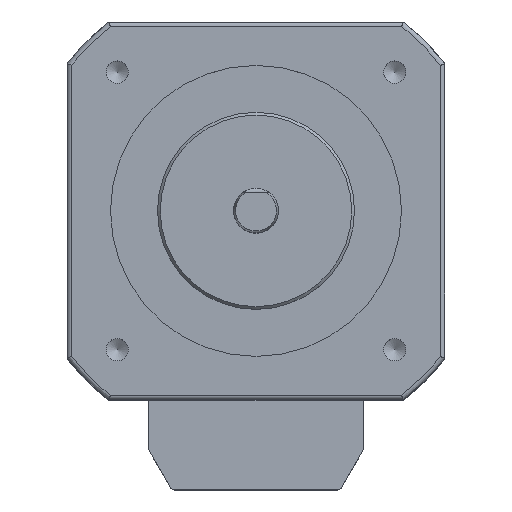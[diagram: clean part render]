
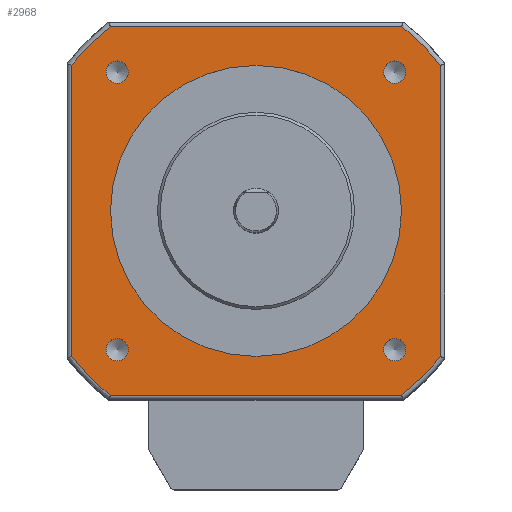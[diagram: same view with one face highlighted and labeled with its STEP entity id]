
A CAD part, top view. The second image highlights one B-rep face of the part: STEP entity #2968.
In plain terms, the highlighted planar face has unit normal (0, 0, 1).
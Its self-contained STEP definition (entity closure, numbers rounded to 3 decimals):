
#2243=CARTESIAN_POINT('',(0.,16.25,48.));
#2244=VERTEX_POINT('',#2243);
#2245=CARTESIAN_POINT('',(0.,0.,48.));
#2246=DIRECTION('',(0.,1.,-0.));
#2247=DIRECTION('',(0.,0.,1.));
#2248=AXIS2_PLACEMENT_3D('',#2245,#2247,#2246);
#2249=CIRCLE('',#2248,16.25);
#2250=EDGE_CURVE('',#2244,#2244,#2249,.T.);
#2508=CARTESIAN_POINT('',(16.268,-20.601,48.));
#2509=VERTEX_POINT('',#2508);
#2517=CARTESIAN_POINT('',(-16.269,-20.6,48.));
#2518=VERTEX_POINT('',#2517);
#2519=CARTESIAN_POINT('',(-16.269,-20.6,48.));
#2520=DIRECTION('',(1.,0.,0.));
#2521=VECTOR('',#2520,32.537);
#2522=LINE('',#2519,#2521);
#2523=EDGE_CURVE('',#2518,#2509,#2522,.T.);
#2581=CARTESIAN_POINT('',(20.6,-16.269,48.));
#2582=VERTEX_POINT('',#2581);
#2590=CARTESIAN_POINT('',(16.268,-20.601,48.));
#2591=CARTESIAN_POINT('',(16.342,-20.542,48.));
#2592=CARTESIAN_POINT('',(16.695,-20.261,48.));
#2593=CARTESIAN_POINT('',(17.311,-19.738,48.));
#2594=CARTESIAN_POINT('',(17.979,-19.131,48.));
#2595=CARTESIAN_POINT('',(18.563,-18.563,48.));
#2596=CARTESIAN_POINT('',(19.131,-17.979,48.));
#2597=CARTESIAN_POINT('',(19.738,-17.311,48.));
#2598=CARTESIAN_POINT('',(20.261,-16.695,48.));
#2599=CARTESIAN_POINT('',(20.542,-16.342,48.));
#2600=CARTESIAN_POINT('',(20.6,-16.269,48.));
#2601=B_SPLINE_CURVE_WITH_KNOTS('',2,(#2590,#2591,#2592,#2593,#2594,#2595,#2596,#2597,#2598,#2599,#2600),.UNSPECIFIED.,.F.,.U.,(3,1,1,1,1,1,1,1,1,3),(0.105,0.129,0.221,0.337,0.453,0.547,0.663,0.779,0.871,0.895),.UNSPECIFIED.);
#2602=EDGE_CURVE('',#2509,#2582,#2601,.T.);
#2614=CARTESIAN_POINT('',(20.601,16.267,48.));
#2615=VERTEX_POINT('',#2614);
#2623=CARTESIAN_POINT('',(20.6,-16.269,48.));
#2624=DIRECTION('',(0.,1.,0.));
#2625=VECTOR('',#2624,32.536);
#2626=LINE('',#2623,#2625);
#2627=EDGE_CURVE('',#2582,#2615,#2626,.T.);
#2683=CARTESIAN_POINT('',(16.269,20.6,48.));
#2684=VERTEX_POINT('',#2683);
#2692=CARTESIAN_POINT('',(20.602,16.267,48.));
#2693=CARTESIAN_POINT('',(20.543,16.341,48.));
#2694=CARTESIAN_POINT('',(20.261,16.695,48.));
#2695=CARTESIAN_POINT('',(19.738,17.311,48.));
#2696=CARTESIAN_POINT('',(19.131,17.979,48.));
#2697=CARTESIAN_POINT('',(18.563,18.563,48.));
#2698=CARTESIAN_POINT('',(17.979,19.131,48.));
#2699=CARTESIAN_POINT('',(17.311,19.738,48.));
#2700=CARTESIAN_POINT('',(16.695,20.261,48.));
#2701=CARTESIAN_POINT('',(16.342,20.542,48.));
#2702=CARTESIAN_POINT('',(16.269,20.6,48.));
#2703=B_SPLINE_CURVE_WITH_KNOTS('',2,(#2692,#2693,#2694,#2695,#2696,#2697,#2698,#2699,#2700,#2701,#2702),.UNSPECIFIED.,.F.,.U.,(3,1,1,1,1,1,1,1,1,3),(0.104,0.129,0.221,0.337,0.453,0.547,0.663,0.779,0.871,0.895),.UNSPECIFIED.);
#2704=EDGE_CURVE('',#2615,#2684,#2703,.T.);
#2716=CARTESIAN_POINT('',(-16.267,20.601,48.));
#2717=VERTEX_POINT('',#2716);
#2725=CARTESIAN_POINT('',(16.269,20.6,48.));
#2726=DIRECTION('',(-1.,0.,0.));
#2727=VECTOR('',#2726,32.536);
#2728=LINE('',#2725,#2727);
#2729=EDGE_CURVE('',#2684,#2717,#2728,.T.);
#2785=CARTESIAN_POINT('',(-20.6,16.269,48.));
#2786=VERTEX_POINT('',#2785);
#2794=CARTESIAN_POINT('',(-16.267,20.602,48.));
#2795=CARTESIAN_POINT('',(-16.341,20.543,48.));
#2796=CARTESIAN_POINT('',(-16.695,20.261,48.));
#2797=CARTESIAN_POINT('',(-17.311,19.738,48.));
#2798=CARTESIAN_POINT('',(-17.979,19.131,48.));
#2799=CARTESIAN_POINT('',(-18.563,18.563,48.));
#2800=CARTESIAN_POINT('',(-19.131,17.979,48.));
#2801=CARTESIAN_POINT('',(-19.738,17.311,48.));
#2802=CARTESIAN_POINT('',(-20.261,16.695,48.));
#2803=CARTESIAN_POINT('',(-20.542,16.342,48.));
#2804=CARTESIAN_POINT('',(-20.6,16.269,48.));
#2805=B_SPLINE_CURVE_WITH_KNOTS('',2,(#2794,#2795,#2796,#2797,#2798,#2799,#2800,#2801,#2802,#2803,#2804),.UNSPECIFIED.,.F.,.U.,(3,1,1,1,1,1,1,1,1,3),(0.104,0.129,0.221,0.337,0.453,0.547,0.663,0.779,0.871,0.895),.UNSPECIFIED.);
#2806=EDGE_CURVE('',#2717,#2786,#2805,.T.);
#2818=CARTESIAN_POINT('',(-20.601,-16.267,48.));
#2819=VERTEX_POINT('',#2818);
#2827=CARTESIAN_POINT('',(-20.6,16.269,48.));
#2828=DIRECTION('',(0.,-1.,0.));
#2829=VECTOR('',#2828,32.536);
#2830=LINE('',#2827,#2829);
#2831=EDGE_CURVE('',#2786,#2819,#2830,.T.);
#2888=CARTESIAN_POINT('',(-20.602,-16.267,48.));
#2889=CARTESIAN_POINT('',(-20.543,-16.341,48.));
#2890=CARTESIAN_POINT('',(-20.261,-16.695,48.));
#2891=CARTESIAN_POINT('',(-19.738,-17.311,48.));
#2892=CARTESIAN_POINT('',(-19.131,-17.979,48.));
#2893=CARTESIAN_POINT('',(-18.563,-18.563,48.));
#2894=CARTESIAN_POINT('',(-17.979,-19.131,48.));
#2895=CARTESIAN_POINT('',(-17.311,-19.738,48.));
#2896=CARTESIAN_POINT('',(-16.695,-20.261,48.));
#2897=CARTESIAN_POINT('',(-16.342,-20.542,48.));
#2898=CARTESIAN_POINT('',(-16.269,-20.6,48.));
#2899=B_SPLINE_CURVE_WITH_KNOTS('',2,(#2888,#2889,#2890,#2891,#2892,#2893,#2894,#2895,#2896,#2897,#2898),.UNSPECIFIED.,.F.,.U.,(3,1,1,1,1,1,1,1,1,3),(0.104,0.129,0.221,0.337,0.453,0.547,0.663,0.779,0.871,0.895),.UNSPECIFIED.);
#2900=EDGE_CURVE('',#2819,#2518,#2899,.T.);
#2906=CARTESIAN_POINT('',(0.,-0.649,48.));
#2907=DIRECTION('',(1.,0.,0.));
#2908=DIRECTION('',(0.,0.,1.));
#2909=AXIS2_PLACEMENT_3D('',#2906,#2908,#2907);
#2910=PLANE('',#2909);
#2911=ORIENTED_EDGE('',*,*,#2523,.T.);
#2912=ORIENTED_EDGE('',*,*,#2602,.T.);
#2913=ORIENTED_EDGE('',*,*,#2627,.T.);
#2914=ORIENTED_EDGE('',*,*,#2704,.T.);
#2915=ORIENTED_EDGE('',*,*,#2729,.T.);
#2916=ORIENTED_EDGE('',*,*,#2806,.T.);
#2917=ORIENTED_EDGE('',*,*,#2831,.T.);
#2918=ORIENTED_EDGE('',*,*,#2900,.T.);
#2919=EDGE_LOOP('',(#2911,#2912,#2913,#2914,#2915,#2916,#2917,#2918));
#2920=FACE_OUTER_BOUND('',#2919,.T.);
#2921=ORIENTED_EDGE('',*,*,#2250,.F.);
#2922=EDGE_LOOP('',(#2921));
#2923=FACE_BOUND('',#2922,.T.);
#2924=CARTESIAN_POINT('',(16.75,-15.5,48.));
#2925=VERTEX_POINT('',#2924);
#2926=CARTESIAN_POINT('',(15.5,-15.5,48.));
#2927=DIRECTION('',(1.,0.,0.));
#2928=DIRECTION('',(0.,0.,-1.));
#2929=AXIS2_PLACEMENT_3D('',#2926,#2928,#2927);
#2930=CIRCLE('',#2929,1.25);
#2931=EDGE_CURVE('',#2925,#2925,#2930,.T.);
#2932=ORIENTED_EDGE('E236',*,*,#2931,.T.);
#2933=EDGE_LOOP('',(#2932));
#2934=FACE_BOUND('',#2933,.T.);
#2935=CARTESIAN_POINT('',(-14.25,-15.5,48.));
#2936=VERTEX_POINT('',#2935);
#2937=CARTESIAN_POINT('',(-15.5,-15.5,48.));
#2938=DIRECTION('',(1.,0.,-0.));
#2939=DIRECTION('',(0.,-0.,-1.));
#2940=AXIS2_PLACEMENT_3D('',#2937,#2939,#2938);
#2941=CIRCLE('',#2940,1.25);
#2942=EDGE_CURVE('',#2936,#2936,#2941,.T.);
#2943=ORIENTED_EDGE('E243',*,*,#2942,.T.);
#2944=EDGE_LOOP('',(#2943));
#2945=FACE_BOUND('',#2944,.T.);
#2946=CARTESIAN_POINT('',(16.75,15.5,48.));
#2947=VERTEX_POINT('',#2946);
#2948=CARTESIAN_POINT('',(15.5,15.5,48.));
#2949=DIRECTION('',(1.,0.,0.));
#2950=DIRECTION('',(0.,0.,-1.));
#2951=AXIS2_PLACEMENT_3D('',#2948,#2950,#2949);
#2952=CIRCLE('',#2951,1.25);
#2953=EDGE_CURVE('',#2947,#2947,#2952,.T.);
#2954=ORIENTED_EDGE('E229',*,*,#2953,.T.);
#2955=EDGE_LOOP('',(#2954));
#2956=FACE_BOUND('',#2955,.T.);
#2957=CARTESIAN_POINT('',(-14.25,15.5,48.));
#2958=VERTEX_POINT('',#2957);
#2959=CARTESIAN_POINT('',(-15.5,15.5,48.));
#2960=DIRECTION('',(1.,0.,0.));
#2961=DIRECTION('',(0.,0.,-1.));
#2962=AXIS2_PLACEMENT_3D('',#2959,#2961,#2960);
#2963=CIRCLE('',#2962,1.25);
#2964=EDGE_CURVE('',#2958,#2958,#2963,.T.);
#2965=ORIENTED_EDGE('E222',*,*,#2964,.T.);
#2966=EDGE_LOOP('',(#2965));
#2967=FACE_BOUND('',#2966,.T.);
#2968=ADVANCED_FACE('F50',(#2920,#2923,#2934,#2945,#2956,#2967),#2910,.T.);
